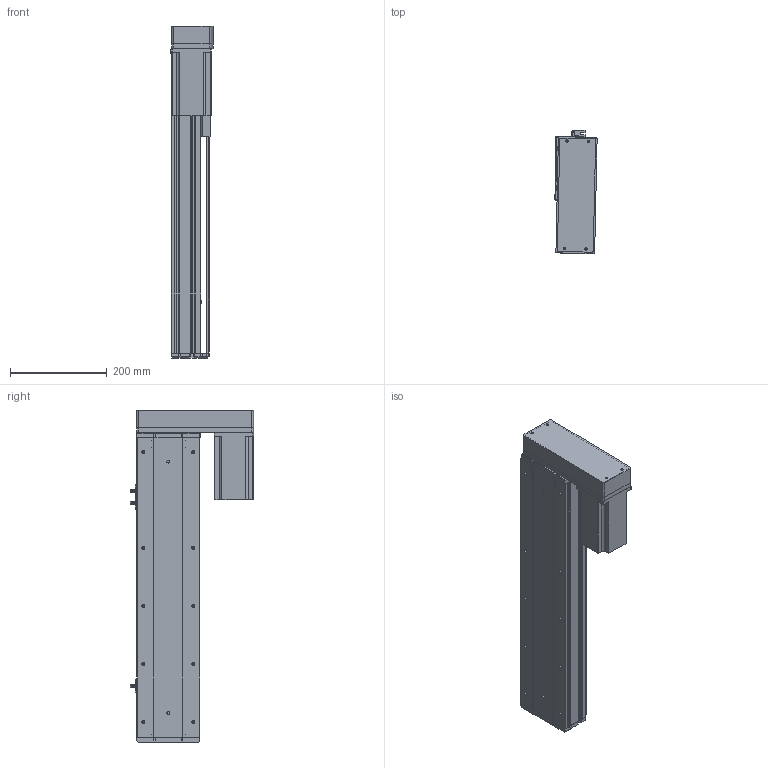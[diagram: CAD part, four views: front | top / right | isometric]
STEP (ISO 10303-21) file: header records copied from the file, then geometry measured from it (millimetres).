
FILE_DESCRIPTION (( 'STEP AP214' ), '1' );
FILE_NAME ('KSD130-P2010-S400-MR-CM.STEP', '2019-09-17T07:38:23', ( '微软用户' ), ( '微软中国' ), 'SwSTEP 2.0', 'SolidWorks 2014', '' );
FILE_SCHEMA (( 'AUTOMOTIVE_DESIGN' ));
Length unit declared in the file: millimetre
Products named in the file (10): 130遵傷裔圉猾敕; 130宽底板半封闭丝杠-400行程; KSD130-P2010-S400-MR-CM; 130宽模组保护罩左右折; 台达ECMA－C20807AS伺服电机; 130宽模组马达安装板连板左右折丝杆; U倰嫖萇EEㄜSX672; 130宽盖板半封闭丝杠-400行程; 130宽滚珠丝杆安装板半封闭-20丝杠; 130宽马达安装板半封闭
Assembly tree (11 placements, depth 2):
  KSD130-P2010-S400-MR-CM
    130宽底板半封闭丝杠-400行程
    130遵傷裔圉猾敕
    130宽马达安装板半封闭
    130宽滚珠丝杆安装板半封闭-20丝杠
    130宽盖板半封闭丝杠-400行程
    U倰嫖萇EEㄜSX672  x3
    130宽模组马达安装板连板左右折丝杆
    台达ECMA－C20807AS伺服电机
    130宽模组保护罩左右折
Bounding box: 87.26 x 255.14 x 685.5 mm (x, y, z)
Volume: 3178126.2 mm3; surface area: 830654.9 mm2
Topology: 12 solids, 12 shells, 1226 faces, 3429 edges, 2193 vertices
Faces by surface type: cylinder 567, plane 532, cone 127
Entity records: 38797 total; most frequent: CARTESIAN_POINT 7017, DIRECTION 5793, ORIENTED_EDGE 5570, EDGE_CURVE 2785, AXIS2_PLACEMENT_3D 2085, VERTEX_POINT 1817, VECTOR 1623, LINE 1623
